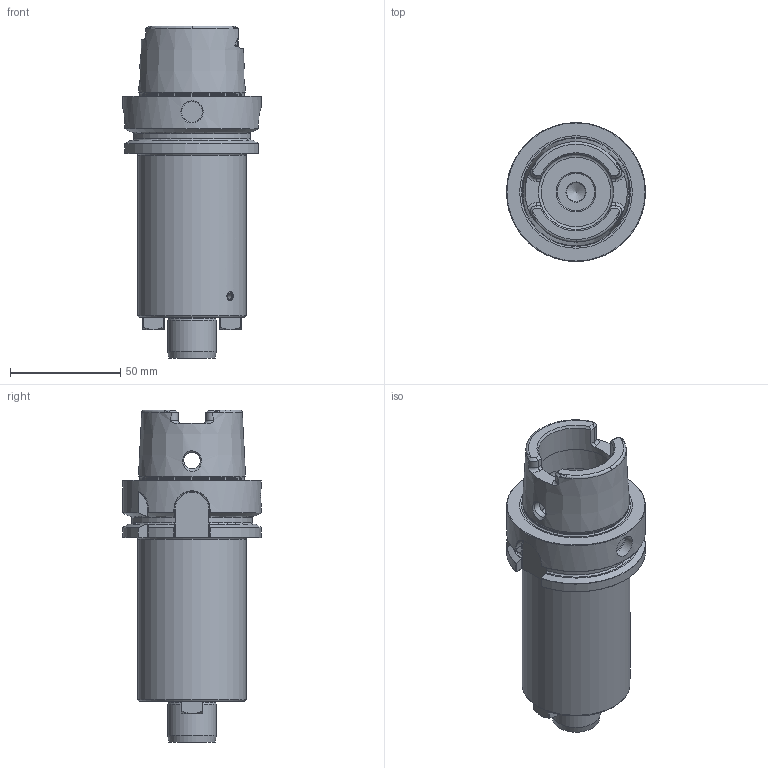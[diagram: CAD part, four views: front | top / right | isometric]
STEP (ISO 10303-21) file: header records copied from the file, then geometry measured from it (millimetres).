
FILE_DESCRIPTION(('HOOPS Exchange Step'),'2;1');
FILE_NAME('C:\Users\trent.mcnamara\OneDrive - DP TECHNOLOGY\ETNG Class Master\ETNG Basic MillTurn Class In Progress\Lesson 4 - Hold on There\Holders\Milling\Holders\Solids\HSK63ASMC22100M.STP','2020-06-10T11:30:24-07:00',('trent.mcnamara'),('Unknown organisation'),'HOOPS Exchange 2020.0','HOOPS Exchange','Unknown authorisation');
FILE_SCHEMA( ('AP242_MANAGED_MODEL_BASED_3D_ENGINEERING_MIM_LF {1 0 10303 442 1 1 4 }') );
Length unit declared in the file: millimetre
Products named in the file (1): 0
Bounding box: 62.94 x 62.94 x 150.4 mm (x, y, z)
Volume: 225387.2 mm3; surface area: 39193.5 mm2
Topology: 5 solids, 5 shells, 293 faces, 790 edges, 512 vertices
Faces by surface type: plane 95, cylinder 91, cone 54, torus 49, bspline 4
Full cylindrical faces by diameter (mm): 2.5 x8, 2.869 x2, 3 x4, 3.985 x2, 4.05 x2, 7.5 x2, 8.4 x1, 8.526 x1, 9.25 x2, 10.008 x2, 10.025 x2, 10.045 x1, 17.035 x1, 18.55 x1, 22 x1, 34.05 x2, 40.08 x1, 47.941 x1, 49 x1, 62.94 x1
Entity records: 14374 total; most frequent: CARTESIAN_POINT 7069, ORIENTED_EDGE 1564, DIRECTION 1493, EDGE_CURVE 782, AXIS2_PLACEMENT_3D 604, VERTEX_POINT 512, EDGE_LOOP 326, FACE_BOUND 326
